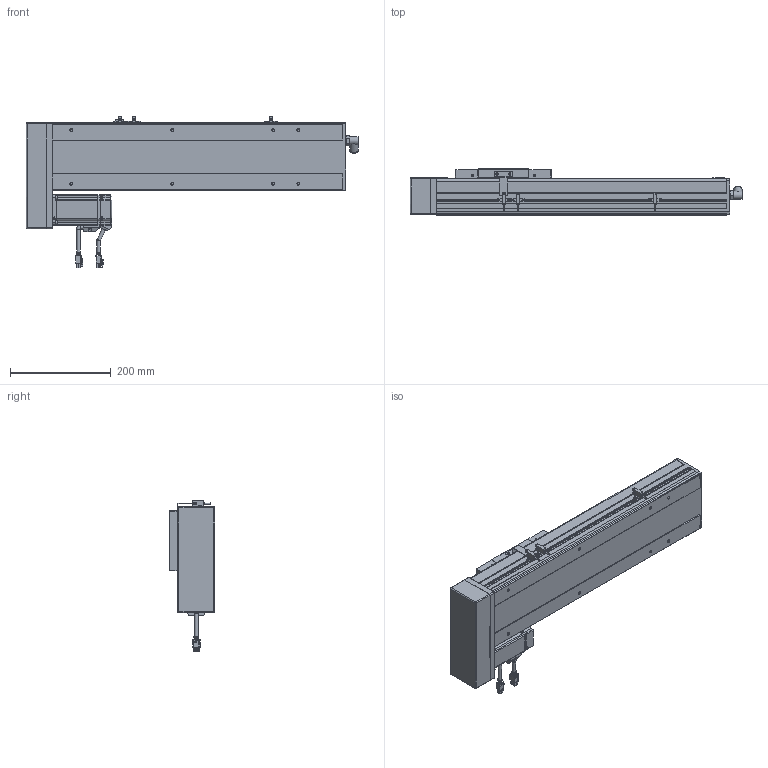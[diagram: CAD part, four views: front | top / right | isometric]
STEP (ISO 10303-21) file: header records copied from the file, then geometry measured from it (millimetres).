
FILE_DESCRIPTION(/* description */ ('STEP AP214'),/* implementation_level */ '2;1');
FILE_NAME(/* name */ 'PSC140-L05-S300-BR-P40-C1-N(0)',/* time_stamp */ '2022-06-13T03:34:31+02:00',/* author */ ('License CC BY-ND 4.0'),/* organization */ ('CADENAS'),/* preprocessor_version */ 'ST-DEVELOPER v18.102',/* originating_system */ 'PARTsolutions',/* authorisation */ ' ');
FILE_SCHEMA (('AUTOMOTIVE_DESIGN {1 0 10303 214 3 1 1}'));
Length unit declared in the file: millimetre
Products named in the file (11): PSC140-L05-S300-BR-P40-C1-N(0); P40-s2; P40-c2; P40-s1; P40-c1; P40-p1; PSC140-BR-body2; PSC140-sensor; PSC140-BR-SLIDER; PSC140-S300-BR-P40-C1_BODY1; PSC140-L05-S300-BR-P40-C1-N(0)_dummy
Assembly tree (12 placements, depth 2):
  PSC140-L05-S300-BR-P40-C1-N(0)
    P40-s2
    P40-c2
    P40-s1
    P40-c1
    P40-p1
    PSC140-BR-body2
    PSC140-sensor  x3
    PSC140-BR-SLIDER
    PSC140-S300-BR-P40-C1_BODY1
    PSC140-L05-S300-BR-P40-C1-N(0)_dummy
Bounding box: 658 x 91 x 300.88 mm (x, y, z)
Volume: 7085806.8 mm3; surface area: 469814.9 mm2
Topology: 11 solids, 11 shells, 1219 faces, 3159 edges, 2091 vertices
Faces by surface type: plane 854, cylinder 310, cone 36, torus 19
Full cylindrical faces by diameter (mm): 1 x8, 2.6 x10, 2.8 x3, 3.3 x8, 4.5 x12, 4.6 x3, 4.917 x12, 5 x4, 5.5 x8, 6 x10, 7 x10, 9 x2, 10 x1, 11 x1, 12 x1, 13.74 x1, 14 x1, 16.4 x2, 16.5 x1, 36 x1, 50 x2
Entity records: 33846 total; most frequent: CARTESIAN_POINT 5917, DIRECTION 5683, ORIENTED_EDGE 5510, EDGE_CURVE 2755, LINE 2097, VECTOR 2097, VERTEX_POINT 1912, AXIS2_PLACEMENT_3D 1793
